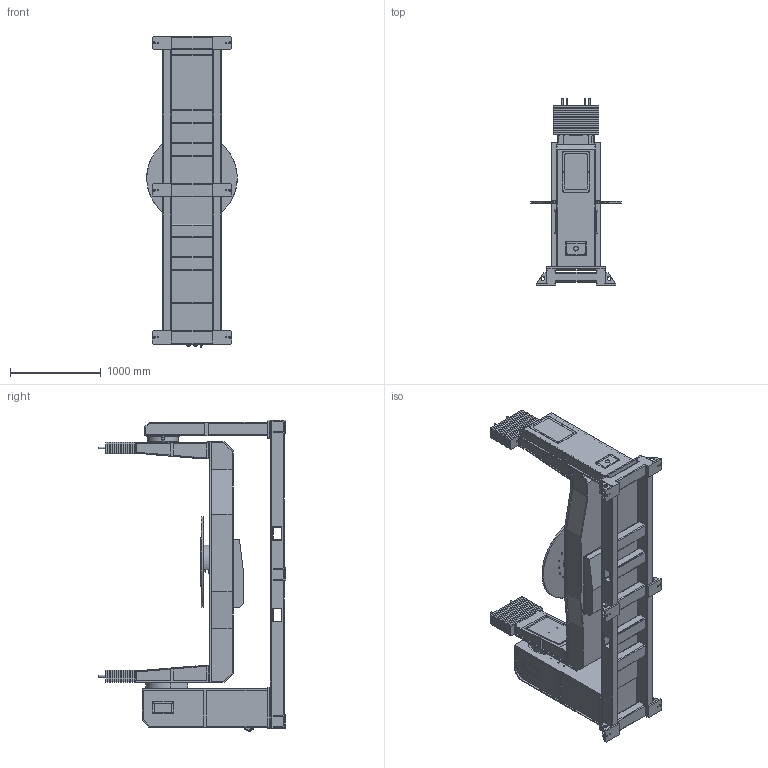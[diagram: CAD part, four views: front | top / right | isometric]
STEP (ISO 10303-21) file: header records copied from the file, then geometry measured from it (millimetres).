
FILE_DESCRIPTION (( 'STEP AP203' ), '1' );
FILE_NAME ('AUT-DWP-U-1000-XXXX.STEP', '2021-05-28T09:59:19', ( 'Microsoft' ), ( 'Microsoft' ), 'SwSTEP 2.0', 'SolidWorks 2016', '' );
FILE_SCHEMA (( 'CONFIG_CONTROL_DESIGN' ));
Length unit declared in the file: millimetre
Products named in the file (1): AUT-DWP-U-1000-XXXX
Bounding box: 997.19 x 2069 x 3441.5 mm (x, y, z)
Surface area: 24138713.5 mm2 (no closed solid volume)
Topology: 0 solids, 86 shells, 1031 faces, 3582 edges, 2608 vertices
Faces by surface type: plane 664, cylinder 361, cone 4, torus 2
Full cylindrical faces by diameter (mm): 4.4 x4, 6 x2, 6.5 x2, 6.6 x23, 10.2 x2, 11 x1, 12 x2, 13.5 x18, 14 x15, 18 x6, 19 x10, 20 x5, 22 x6, 22.5 x6, 23 x12, 24 x18, 30 x1, 45 x12, 50 x1, 150 x1, 160 x1, 170 x1, 180 x1, 280 x1, 310 x1, 340 x1, 370 x1, 550 x1, 1000 x1
Entity records: 38014 total; most frequent: CARTESIAN_POINT 7206, DIRECTION 6496, ORIENTED_EDGE 5113, EDGE_CURVE 3352, VERTEX_POINT 2540, VECTOR 2266, LINE 2266, AXIS2_PLACEMENT_3D 2115
